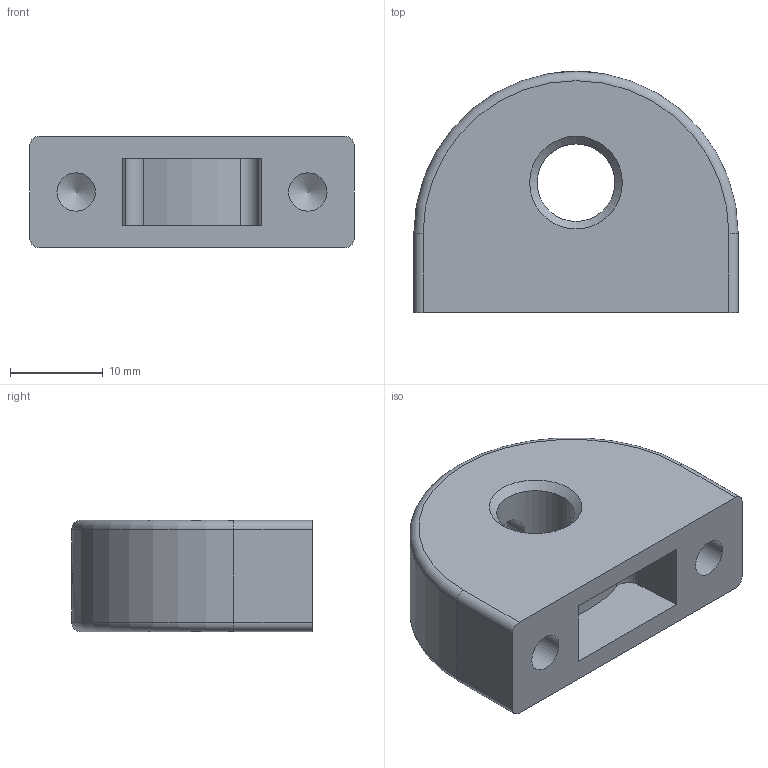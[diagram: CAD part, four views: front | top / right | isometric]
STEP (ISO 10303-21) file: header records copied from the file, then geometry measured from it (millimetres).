
FILE_DESCRIPTION( ( 'STEP AP203' ), '1' );
FILE_NAME( 'C:/Temp/Ganter_Step_05_03_2020/data/3_1/gn412_1/Mounting block GN 412.1-35-M10-2.stp', '2020-03-12T08:30:55', ( 'License CC BY-ND 4.0' ), ( 'CADENAS' ), ' ', 'PARTsolutions', ' ' );
FILE_SCHEMA( ( 'CONFIG_CONTROL_DESIGN' ) );
Length unit declared in the file: millimetre
Products named in the file (1): _Mounting block GN 412.1-35-M10-2
Bounding box: 35 x 26 x 12 mm (x, y, z)
Volume: 7496.7 mm3; surface area: 3650.7 mm2
Topology: 1 solids, 1 shells, 42 faces, 94 edges, 59 vertices
Faces by surface type: plane 19, cylinder 15, cone 6, torus 2
Full cylindrical faces by diameter (mm): 2.5 x1, 4 x2, 4.134 x2, 8.376 x1, 10.2 x1
Entity records: 1240 total; most frequent: CARTESIAN_POINT 289, DIRECTION 196, ORIENTED_EDGE 158, EDGE_CURVE 79, AXIS2_PLACEMENT_3D 76, EDGE_LOOP 62, VERTEX_POINT 59, FACE_OUTER_BOUND 49
